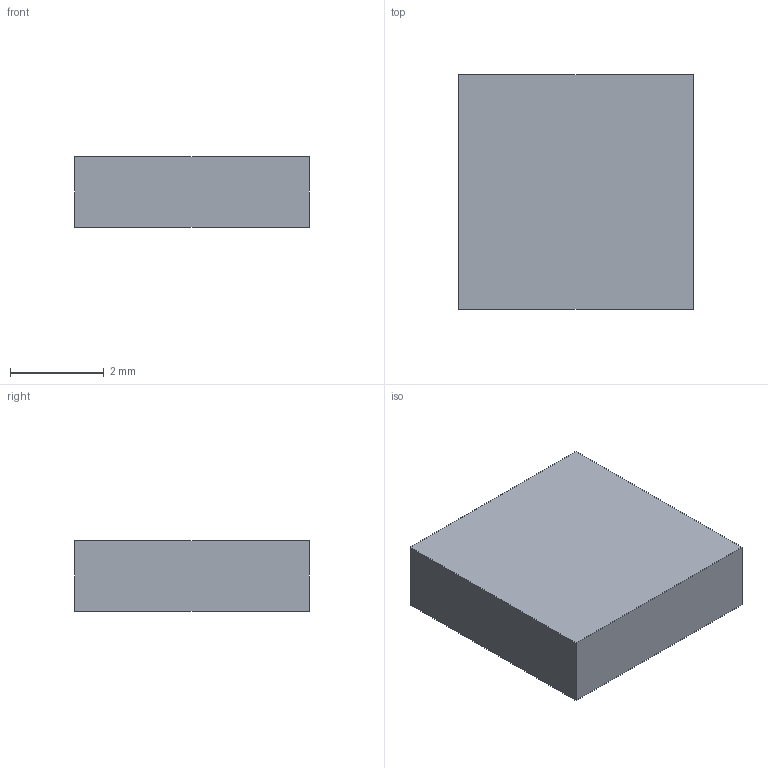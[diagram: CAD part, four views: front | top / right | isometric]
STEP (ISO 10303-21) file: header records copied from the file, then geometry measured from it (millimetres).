
FILE_DESCRIPTION(('Open CASCADE Model'),'2;1');
FILE_NAME('Open CASCADE Shape Model','2026-10-17T17:22:13',('Author'),( 'Open CASCADE'),'Open CASCADE STEP processor 7.9','Open CASCADE 7.9' ,'Unknown');
FILE_SCHEMA(('AUTOMOTIVE_DESIGN { 1 0 10303 214 1 1 1 1 }'));
Length unit declared in the file: millimetre
Products named in the file (1): Open CASCADE STEP translator 7.9 11
Bounding box: 5 x 5 x 1.5 mm (x, y, z)
Volume: 37.5 mm3; surface area: 80 mm2
Topology: 1 solids, 1 shells, 6 faces, 12 edges, 8 vertices
Faces by surface type: plane 6
Entity records: 322 total; most frequent: CARTESIAN_POINT 51, DIRECTION 50, LINE 36, VECTOR 36, ORIENTED_EDGE 24, PCURVE 24, DEFINITIONAL_REPRESENTATION 24, EDGE_CURVE 12
